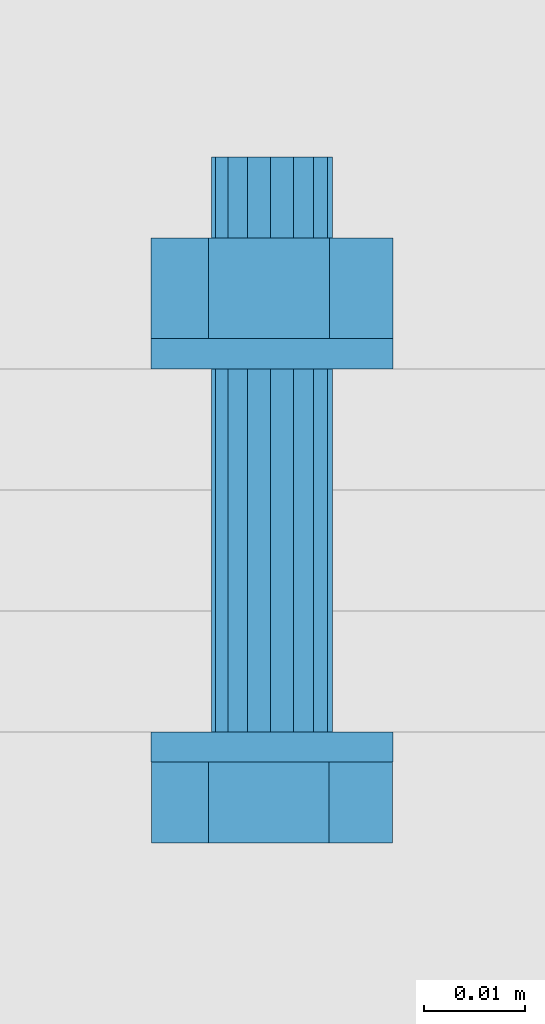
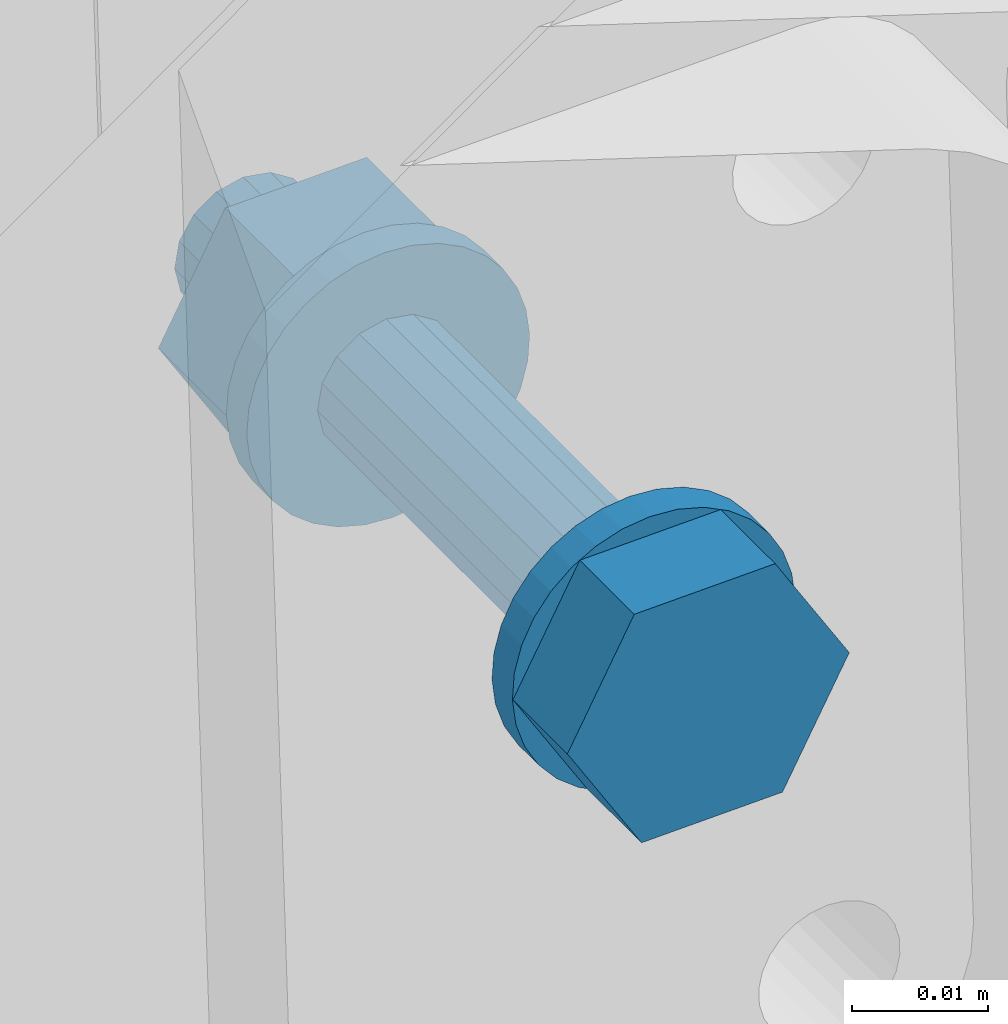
# One storey, part 308 of 476: 1 mechanical fastener.
"""IFC2X3 building model written with IfcOpenShell, lengths in millimetres."""

from ifc_helpers import new_model, entity, si_unit, converted_unit, origin_with_axes, place, context, project, spatial, faceted_brep, element, save


model = new_model("IFC2X3")

# Units and contexts
model_context = context("Model", 3, precision=1e-09, world=origin_with_axes())
ifc_project = project(units=[si_unit("LENGTHUNIT", "METRE", prefix="MILLI"), si_unit("AREAUNIT", "SQUARE_METRE"), si_unit("VOLUMEUNIT", "CUBIC_METRE"), converted_unit("PLANEANGLEUNIT", "DEGREE", entity("IfcPlaneAngleMeasure", 0.01745329), si_unit("PLANEANGLEUNIT", "RADIAN"), dimensions=[0, 0, 0, 0, 0, 0, 0])], contexts=[model_context])

# Site, building, storey
site_placement = place(None, origin_with_axes())
site = spatial("IfcSite", under=ifc_project, at=site_placement, Name="mKR Teilneubau & Sanierung BA1 - Ostfildern", CompositionType="ELEMENT")
building_placement = place(site_placement, origin_with_axes())
building = spatial("IfcBuilding", under=site, at=building_placement, Name="Struktur 1", CompositionType="ELEMENT")
storey_placement = place(building_placement, origin_with_axes())
storey = spatial("IfcBuildingStorey", under=building, at=storey_placement, Name="Default Storey", CompositionType="ELEMENT", Elevation=0.0)

# Mechanical fastener
mechanical_fastener_placement = place(None, origin_with_axes())
element("IfcMechanicalFastener", 1, at=mechanical_fastener_placement, inside=storey, ObjectType="Bolt#2", NominalDiameter=12.0, NominalLength=60.0, context=model_context, shape_type="Brep", body=[
    faceted_brep([(15035.982538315, -9786.67387897, 5351.70692488), (15035.982538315, -9783.67387897, 5351.70692488), (15038.315645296, -9783.67387897, 5352.007675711), (15038.315645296, -9786.67387897, 5352.007675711), (15040.545248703, -9783.67387897, 5352.757814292), (15040.545248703, -9786.67387897, 5352.757814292), (15042.585666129, -9783.67387897, 5353.928513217), (15042.585666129, -9786.67387897, 5353.928513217), (15044.358485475, -9783.67387897, 5355.474783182), (15044.358485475, -9786.67387897, 5355.474783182), (15045.79557829, -9783.67387897, 5357.337201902), (15045.79557829, -9786.67387897, 5357.337201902), (15046.841717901, -9783.67387897, 5359.444197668), (15046.841717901, -9786.67387897, 5359.444197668), (15047.456701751, -9783.67387897, 5361.714799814), (15047.456701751, -9786.67387897, 5361.714799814), (15047.616896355, -9783.67387897, 5364.061750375), (15047.616896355, -9786.67387897, 5364.061750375), (15047.316145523, -9783.67387897, 5366.394857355), (15047.316145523, -9786.67387897, 5366.394857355), (15046.566006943, -9783.67387897, 5368.624460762), (15046.566006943, -9786.67387897, 5368.624460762), (15045.395308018, -9783.67387897, 5370.664878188), (15045.395308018, -9786.67387897, 5370.664878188), (15043.849038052, -9783.67387897, 5372.437697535), (15043.849038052, -9786.67387897, 5372.437697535), (15041.986619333, -9783.67387897, 5373.874790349), (15041.986619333, -9786.67387897, 5373.874790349), (15039.879623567, -9783.67387897, 5374.920929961), (15039.879623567, -9786.67387897, 5374.920929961), (15037.60902142, -9783.67387897, 5375.53591381), (15037.60902142, -9786.67387897, 5375.53591381), (15035.26207086, -9783.67387897, 5375.696108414), (15035.26207086, -9786.67387897, 5375.696108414), (15032.928963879, -9783.67387897, 5375.395357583), (15032.928963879, -9786.67387897, 5375.395357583), (15030.699360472, -9783.67387897, 5374.645219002), (15030.699360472, -9786.67387897, 5374.645219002), (15028.658943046, -9783.67387897, 5373.474520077), (15028.658943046, -9786.67387897, 5373.474520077), (15026.8861237, -9783.67387897, 5371.928250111), (15026.8861237, -9786.67387897, 5371.928250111), (15025.449030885, -9783.67387897, 5370.065831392), (15025.449030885, -9786.67387897, 5370.065831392), (15024.402891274, -9783.67387897, 5367.958835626), (15024.402891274, -9786.67387897, 5367.958835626), (15023.787907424, -9783.67387897, 5365.688233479), (15023.787907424, -9786.67387897, 5365.688233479), (15023.62771282, -9783.67387897, 5363.341282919), (15023.62771282, -9786.67387897, 5363.341282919), (15023.928463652, -9783.67387897, 5361.008175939), (15023.928463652, -9786.67387897, 5361.008175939), (15024.678602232, -9783.67387897, 5358.778572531), (15024.678602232, -9786.67387897, 5358.778572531), (15025.849301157, -9783.67387897, 5356.738155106), (15025.849301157, -9786.67387897, 5356.738155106), (15027.395571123, -9783.67387897, 5354.965335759), (15027.395571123, -9786.67387897, 5354.965335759), (15029.257989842, -9783.67387897, 5353.528242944), (15029.257989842, -9786.67387897, 5353.528242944), (15031.364985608, -9783.67387897, 5352.482103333), (15031.364985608, -9786.67387897, 5352.482103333), (15033.635587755, -9783.67387897, 5351.867119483), (15033.635587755, -9786.67387897, 5351.867119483)], [[[0, 1, 2, 3]], [[3, 2, 4, 5]], [[5, 4, 6, 7]], [[7, 6, 8, 9]], [[9, 8, 10, 11]], [[11, 10, 12, 13]], [[13, 12, 14, 15]], [[15, 14, 16, 17]], [[17, 16, 18, 19]], [[19, 18, 20, 21]], [[21, 20, 22, 23]], [[23, 22, 24, 25]], [[25, 24, 26, 27]], [[27, 26, 28, 29]], [[29, 28, 30, 31]], [[31, 30, 32, 33]], [[33, 32, 34, 35]], [[35, 34, 36, 37]], [[37, 36, 38, 39]], [[39, 38, 40, 41]], [[41, 40, 42, 43]], [[43, 42, 44, 45]], [[45, 44, 46, 47]], [[47, 46, 48, 49]], [[49, 48, 50, 51]], [[51, 50, 52, 53]], [[53, 52, 54, 55]], [[55, 54, 56, 57]], [[57, 56, 58, 59]], [[59, 58, 60, 61]], [[61, 60, 62, 63]], [[63, 62, 1, 0]], [[0, 3, 5, 7, 9, 11, 13, 15, 17, 19, 21, 23, 25, 27, 29, 31, 33, 35, 37, 39, 41, 43, 45, 47, 49, 51, 53, 55, 57, 59, 61, 63]], [[1, 62, 60, 58, 56, 54, 52, 50, 48, 46, 44, 42, 40, 38, 36, 34, 32, 30, 28, 26, 24, 22, 20, 18, 16, 14, 12, 10, 8, 6, 4, 2]]]),
    faceted_brep([(15041.286308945, -9786.67387897, 5374.229625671), (15041.286308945, -9794.67387897, 5374.229625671), (15047.571916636, -9794.67387897, 5364.060399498), (15047.571916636, -9786.67387897, 5364.060399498), (15041.907912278, -9794.67387897, 5353.532290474), (15041.907912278, -9786.67387897, 5353.532290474), (15029.95830023, -9794.67387897, 5353.173407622), (15029.95830023, -9786.67387897, 5353.173407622), (15023.672692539, -9794.67387897, 5363.342633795), (15023.672692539, -9786.67387897, 5363.342633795), (15029.336696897, -9794.67387897, 5373.87074282), (15029.336696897, -9786.67387897, 5373.87074282)], [[[0, 1, 2, 3]], [[3, 2, 4, 5]], [[5, 4, 6, 7]], [[7, 6, 8, 9]], [[9, 8, 10, 11]], [[11, 10, 1, 0]], [[4, 2, 1, 10, 8, 6]], [[0, 3, 5, 7, 9, 11]]]),
    faceted_brep([(15035.802421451, -9783.67387897, 5357.704220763), (15035.802421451, -9747.67387897, 5357.704220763), (15038.083776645, -9747.67387897, 5358.229665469), (15038.083776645, -9783.67387897, 5358.229665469), (15039.990395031, -9747.67387897, 5359.588149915), (15039.990395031, -9783.67387897, 5359.588149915), (15041.232011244, -9747.67387897, 5361.572857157), (15041.232011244, -9783.67387897, 5361.572857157), (15041.619600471, -9747.67387897, 5363.881633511), (15041.619600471, -9783.67387897, 5363.881633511), (15041.094155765, -9747.67387897, 5366.162988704), (15041.094155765, -9783.67387897, 5366.162988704), (15039.73567132, -9747.67387897, 5368.069607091), (15039.73567132, -9783.67387897, 5368.069607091), (15037.750964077, -9747.67387897, 5369.311223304), (15037.750964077, -9783.67387897, 5369.311223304), (15035.442187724, -9747.67387897, 5369.69881253), (15035.442187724, -9783.67387897, 5369.69881253), (15033.16083253, -9747.67387897, 5369.173367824), (15033.16083253, -9783.67387897, 5369.173367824), (15031.254214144, -9747.67387897, 5367.814883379), (15031.254214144, -9783.67387897, 5367.814883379), (15030.012597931, -9747.67387897, 5365.830176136), (15030.012597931, -9783.67387897, 5365.830176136), (15029.625008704, -9747.67387897, 5363.521399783), (15029.625008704, -9783.67387897, 5363.521399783), (15030.15045341, -9747.67387897, 5361.240044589), (15030.15045341, -9783.67387897, 5361.240044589), (15031.508937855, -9747.67387897, 5359.333426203), (15031.508937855, -9783.67387897, 5359.333426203), (15033.493645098, -9747.67387897, 5358.09180999), (15033.493645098, -9783.67387897, 5358.09180999)], [[[0, 1, 2, 3]], [[3, 2, 4, 5]], [[5, 4, 6, 7]], [[7, 6, 8, 9]], [[9, 8, 10, 11]], [[11, 10, 12, 13]], [[13, 12, 14, 15]], [[15, 14, 16, 17]], [[17, 16, 18, 19]], [[19, 18, 20, 21]], [[21, 20, 22, 23]], [[23, 22, 24, 25]], [[25, 24, 26, 27]], [[27, 26, 28, 29]], [[29, 28, 30, 31]], [[31, 30, 1, 0]], [[0, 3, 5, 7, 9, 11, 13, 15, 17, 19, 21, 23, 25, 27, 29, 31]], [[1, 30, 28, 26, 24, 22, 20, 18, 16, 14, 12, 10, 8, 6, 4, 2]]]),
    faceted_brep([(15035.982538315, -9747.67387897, 5351.70692488), (15035.982538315, -9744.67387897, 5351.70692488), (15038.315645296, -9744.67387897, 5352.007675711), (15038.315645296, -9747.67387897, 5352.007675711), (15040.545248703, -9744.67387897, 5352.757814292), (15040.545248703, -9747.67387897, 5352.757814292), (15042.585666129, -9744.67387897, 5353.928513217), (15042.585666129, -9747.67387897, 5353.928513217), (15044.358485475, -9744.67387897, 5355.474783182), (15044.358485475, -9747.67387897, 5355.474783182), (15045.79557829, -9744.67387897, 5357.337201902), (15045.79557829, -9747.67387897, 5357.337201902), (15046.841717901, -9744.67387897, 5359.444197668), (15046.841717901, -9747.67387897, 5359.444197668), (15047.456701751, -9744.67387897, 5361.714799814), (15047.456701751, -9747.67387897, 5361.714799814), (15047.616896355, -9744.67387897, 5364.061750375), (15047.616896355, -9747.67387897, 5364.061750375), (15047.316145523, -9744.67387897, 5366.394857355), (15047.316145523, -9747.67387897, 5366.394857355), (15046.566006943, -9744.67387897, 5368.624460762), (15046.566006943, -9747.67387897, 5368.624460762), (15045.395308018, -9744.67387897, 5370.664878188), (15045.395308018, -9747.67387897, 5370.664878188), (15043.849038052, -9744.67387897, 5372.437697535), (15043.849038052, -9747.67387897, 5372.437697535), (15041.986619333, -9744.67387897, 5373.874790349), (15041.986619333, -9747.67387897, 5373.874790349), (15039.879623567, -9744.67387897, 5374.920929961), (15039.879623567, -9747.67387897, 5374.920929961), (15037.60902142, -9744.67387897, 5375.53591381), (15037.60902142, -9747.67387897, 5375.53591381), (15035.26207086, -9744.67387897, 5375.696108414), (15035.26207086, -9747.67387897, 5375.696108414), (15032.928963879, -9744.67387897, 5375.395357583), (15032.928963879, -9747.67387897, 5375.395357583), (15030.699360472, -9744.67387897, 5374.645219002), (15030.699360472, -9747.67387897, 5374.645219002), (15028.658943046, -9744.67387897, 5373.474520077), (15028.658943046, -9747.67387897, 5373.474520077), (15026.8861237, -9744.67387897, 5371.928250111), (15026.8861237, -9747.67387897, 5371.928250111), (15025.449030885, -9744.67387897, 5370.065831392), (15025.449030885, -9747.67387897, 5370.065831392), (15024.402891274, -9744.67387897, 5367.958835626), (15024.402891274, -9747.67387897, 5367.958835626), (15023.787907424, -9744.67387897, 5365.688233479), (15023.787907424, -9747.67387897, 5365.688233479), (15023.62771282, -9744.67387897, 5363.341282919), (15023.62771282, -9747.67387897, 5363.341282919), (15023.928463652, -9744.67387897, 5361.008175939), (15023.928463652, -9747.67387897, 5361.008175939), (15024.678602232, -9744.67387897, 5358.778572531), (15024.678602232, -9747.67387897, 5358.778572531), (15025.849301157, -9744.67387897, 5356.738155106), (15025.849301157, -9747.67387897, 5356.738155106), (15027.395571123, -9744.67387897, 5354.965335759), (15027.395571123, -9747.67387897, 5354.965335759), (15029.257989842, -9744.67387897, 5353.528242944), (15029.257989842, -9747.67387897, 5353.528242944), (15031.364985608, -9744.67387897, 5352.482103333), (15031.364985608, -9747.67387897, 5352.482103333), (15033.635587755, -9744.67387897, 5351.867119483), (15033.635587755, -9747.67387897, 5351.867119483)], [[[0, 1, 2, 3]], [[3, 2, 4, 5]], [[5, 4, 6, 7]], [[7, 6, 8, 9]], [[9, 8, 10, 11]], [[11, 10, 12, 13]], [[13, 12, 14, 15]], [[15, 14, 16, 17]], [[17, 16, 18, 19]], [[19, 18, 20, 21]], [[21, 20, 22, 23]], [[23, 22, 24, 25]], [[25, 24, 26, 27]], [[27, 26, 28, 29]], [[29, 28, 30, 31]], [[31, 30, 32, 33]], [[33, 32, 34, 35]], [[35, 34, 36, 37]], [[37, 36, 38, 39]], [[39, 38, 40, 41]], [[41, 40, 42, 43]], [[43, 42, 44, 45]], [[45, 44, 46, 47]], [[47, 46, 48, 49]], [[49, 48, 50, 51]], [[51, 50, 52, 53]], [[53, 52, 54, 55]], [[55, 54, 56, 57]], [[57, 56, 58, 59]], [[59, 58, 60, 61]], [[61, 60, 62, 63]], [[63, 62, 1, 0]], [[0, 3, 5, 7, 9, 11, 13, 15, 17, 19, 21, 23, 25, 27, 29, 31, 33, 35, 37, 39, 41, 43, 45, 47, 49, 51, 53, 55, 57, 59, 61, 63]], [[1, 62, 60, 58, 56, 54, 52, 50, 48, 46, 44, 42, 40, 38, 36, 34, 32, 30, 28, 26, 24, 22, 20, 18, 16, 14, 12, 10, 8, 6, 4, 2]]]),
    faceted_brep([(15041.307628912, -9734.67387897, 5374.269254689), (15041.307628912, -9744.67387897, 5374.269254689), (15047.616896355, -9744.67387897, 5364.061750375), (15047.616896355, -9734.67387897, 5364.061750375), (15041.931572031, -9744.67387897, 5353.494012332), (15041.931572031, -9734.67387897, 5353.494012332), (15029.936980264, -9744.67387897, 5353.133778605), (15029.936980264, -9734.67387897, 5353.133778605), (15023.62771282, -9744.67387897, 5363.341282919), (15023.62771282, -9734.67387897, 5363.341282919), (15029.313037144, -9744.67387897, 5373.909020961), (15029.313037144, -9734.67387897, 5373.909020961)], [[[0, 1, 2, 3]], [[3, 2, 4, 5]], [[5, 4, 6, 7]], [[7, 6, 8, 9]], [[9, 8, 10, 11]], [[11, 10, 1, 0]], [[4, 2, 1, 10, 8, 6]], [[0, 3, 5, 7, 9, 11]]]),
    faceted_brep([(15035.802421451, -9734.67387897, 5357.704220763), (15035.802421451, -9726.67387897, 5357.704220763), (15038.083776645, -9726.67387897, 5358.229665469), (15038.083776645, -9734.67387897, 5358.229665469), (15039.990395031, -9726.67387897, 5359.588149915), (15039.990395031, -9734.67387897, 5359.588149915), (15041.232011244, -9726.67387897, 5361.572857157), (15041.232011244, -9734.67387897, 5361.572857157), (15041.619600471, -9726.67387897, 5363.881633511), (15041.619600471, -9734.67387897, 5363.881633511), (15041.094155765, -9726.67387897, 5366.162988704), (15041.094155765, -9734.67387897, 5366.162988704), (15039.73567132, -9726.67387897, 5368.069607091), (15039.73567132, -9734.67387897, 5368.069607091), (15037.750964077, -9726.67387897, 5369.311223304), (15037.750964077, -9734.67387897, 5369.311223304), (15035.442187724, -9726.67387897, 5369.69881253), (15035.442187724, -9734.67387897, 5369.69881253), (15033.16083253, -9726.67387897, 5369.173367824), (15033.16083253, -9734.67387897, 5369.173367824), (15031.254214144, -9726.67387897, 5367.814883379), (15031.254214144, -9734.67387897, 5367.814883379), (15030.012597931, -9726.67387897, 5365.830176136), (15030.012597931, -9734.67387897, 5365.830176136), (15029.625008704, -9726.67387897, 5363.521399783), (15029.625008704, -9734.67387897, 5363.521399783), (15030.15045341, -9726.67387897, 5361.240044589), (15030.15045341, -9734.67387897, 5361.240044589), (15031.508937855, -9726.67387897, 5359.333426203), (15031.508937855, -9734.67387897, 5359.333426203), (15033.493645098, -9726.67387897, 5358.09180999), (15033.493645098, -9734.67387897, 5358.09180999)], [[[0, 1, 2, 3]], [[3, 2, 4, 5]], [[5, 4, 6, 7]], [[7, 6, 8, 9]], [[9, 8, 10, 11]], [[11, 10, 12, 13]], [[13, 12, 14, 15]], [[15, 14, 16, 17]], [[17, 16, 18, 19]], [[19, 18, 20, 21]], [[21, 20, 22, 23]], [[23, 22, 24, 25]], [[25, 24, 26, 27]], [[27, 26, 28, 29]], [[29, 28, 30, 31]], [[31, 30, 1, 0]], [[0, 3, 5, 7, 9, 11, 13, 15, 17, 19, 21, 23, 25, 27, 29, 31]], [[1, 30, 28, 26, 24, 22, 20, 18, 16, 14, 12, 10, 8, 6, 4, 2]]]),
])

save(model, "model.ifc")
